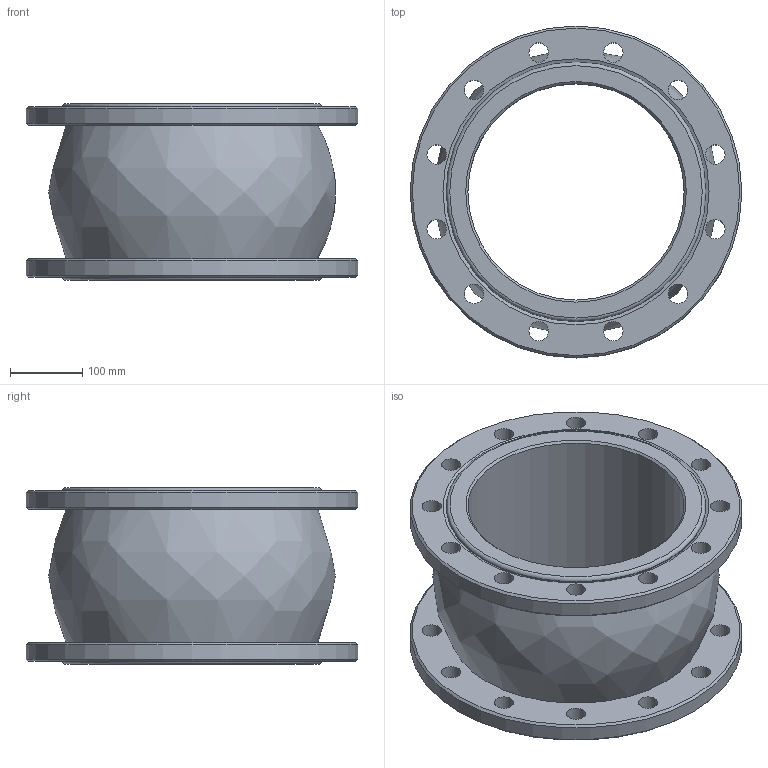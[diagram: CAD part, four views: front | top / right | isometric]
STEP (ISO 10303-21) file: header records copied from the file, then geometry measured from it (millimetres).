
FILE_DESCRIPTION(/* description */ ('D140-02109','CAx-IF Rec.Pracs.---Representation and Presentation of Product Manufacturing Information (PMI)---4.0---2014-10-13'),/* implementation_level */ '2;1');
FILE_NAME(/* name */ '',/* time_stamp */ '2026-03-11T00:51:48+03:00',/* author */ ('DN.RU'),/* organization */ ('DN.RU'),/* preprocessor_version */ 'ST-DEVELOPER v20',/* originating_system */ 'Autodesk Inventor 2025',/* authorisation */ '');
FILE_SCHEMA (('AP242_MANAGED_MODEL_BASED_3D_ENGINEERING_MIM_LF { 1 0 10303 442 1 1 4 }'));
Length unit declared in the file: millimetre
Products named in the file (1): CR-N34-F
Bounding box: 460 x 460 x 245 mm (x, y, z)
Volume: 12927534 mm3; surface area: 892826.9 mm2
Topology: 1 solids, 1 shells, 115 faces, 317 edges, 211 vertices
Faces by surface type: plane 43, bspline 34, cylinder 29, cone 7, torus 2
Full cylindrical faces by diameter (mm): 27 x24, 300 x1, 360 x2, 460 x2
Entity records: 4966 total; most frequent: CARTESIAN_POINT 1728, ORIENTED_EDGE 634, DIRECTION 618, EDGE_CURVE 317, AXIS2_PLACEMENT_3D 261, VERTEX_POINT 211, EDGE_LOOP 172, CIRCLE 166
